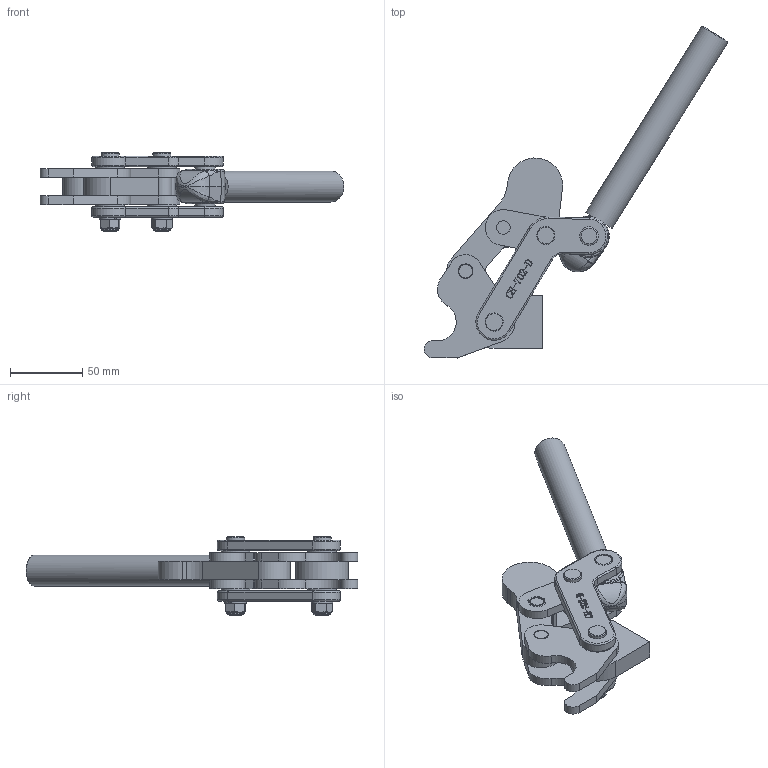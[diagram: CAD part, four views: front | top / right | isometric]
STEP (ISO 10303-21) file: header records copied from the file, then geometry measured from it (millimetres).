
FILE_DESCRIPTION(/* description */ ('STEP AP203'),/* implementation_level */ '2;1');
FILE_NAME(/* name */ 'D:\Vault_2016\Projekty\NASZ KATALOG\CLAMPTEK\STRONA\Heavy duty weldables\CH-702-D\CH-702-D_OTWARTY.stp',/* time_stamp */ '2019-01-14T15:48:19+01:00',/* author */ ('CADENGINEERING4'),/* organization */ ('Î¢ÈíÖÐ¹ú'),/* preprocessor_version */ 'ST-DEVELOPER v17.2',/* originating_system */ 'Autodesk Inventor 2019',/* authorisation */ '');
FILE_SCHEMA (('AUTOMOTIVE_DESIGN { 1 0 10303 214 3 1 1 }'));
Length unit declared in the file: millimetre
Products named in the file (14): CH-702-D_OTWARTY; 702-D-02_Ä¬ÈÏ; 702-D-01_Ä¬ÈÏ; 702-D-04_Ä¬ÈÏ; 702-D-05_Ä¬ÈÏ; 702-D-03_Ä¬ÈÏ; 702-D-06_Ä¬ÈÏ; 702-D-12_Ä¬ÈÏ; 702-D-08_Ä¬ÈÏ; 702-D-09_Ä¬ÈÏ; 702-D-07_Ä¬ÈÏ; 702-D-10_Ä¬ÈÏ; 702-D-11_Ä¬ÈÏ; 3-8-16 LOCK NUT_Ä¬ÈÏ
Assembly tree (24 placements, depth 2):
  CH-702-D_OTWARTY
    702-D-02_Ä¬ÈÏ
    702-D-01_Ä¬ÈÏ  x2
    702-D-04_Ä¬ÈÏ
    702-D-06_Ä¬ÈÏ  x2
    702-D-08_Ä¬ÈÏ  x3
    702-D-12_Ä¬ÈÏ  x2
    702-D-05_Ä¬ÈÏ
    702-D-03_Ä¬ÈÏ  x2
    702-D-11_Ä¬ÈÏ  x4
    702-D-09_Ä¬ÈÏ
    702-D-07_Ä¬ÈÏ  x2
    3-8-16 LOCK NUT_Ä¬ÈÏ  x2
    702-D-10_Ä¬ÈÏ
Bounding box: 210.8 x 230.35 x 54.6 mm (x, y, z)
Volume: 204852.4 mm3; surface area: 92790.8 mm2
Topology: 25 solids, 25 shells, 2539 faces, 7379 edges, 4934 vertices
Faces by surface type: plane 1732, cylinder 508, bspline 217, cone 48, torus 30, sphere 4
Full cylindrical faces by diameter (mm): 2.749 x1, 3.071 x1, 7.5 x2, 8.5 x8, 9.5 x29, 9.6 x3, 9.8 x6, 10 x4, 12 x2, 12.6 x2, 12.7 x4, 12.8 x6, 12.9 x2, 14 x7, 16 x1, 20 x4, 21.5 x1
Entity records: 63443 total; most frequent: CARTESIAN_POINT 23656, ORIENTED_EDGE 8708, DIRECTION 7515, EDGE_CURVE 4354, LINE 2905, VECTOR 2905, VERTEX_POINT 2900, AXIS2_PLACEMENT_3D 2305
